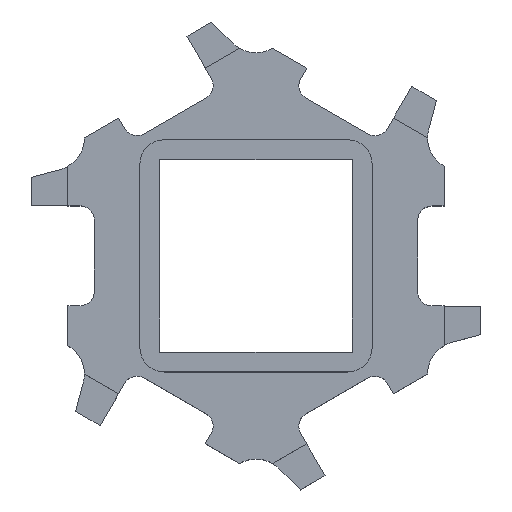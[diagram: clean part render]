
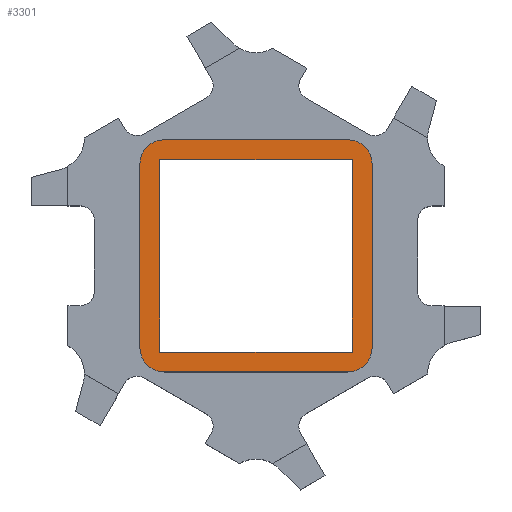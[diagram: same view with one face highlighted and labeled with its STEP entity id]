
A CAD part, top view. The second image highlights one B-rep face of the part: STEP entity #3301.
In plain terms, the highlighted planar face has unit normal (0, 0, 1).
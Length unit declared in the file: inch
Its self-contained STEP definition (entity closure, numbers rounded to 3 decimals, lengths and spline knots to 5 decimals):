
#1176=CARTESIAN_POINT('',(0.75,0.75,0.73));
#1177=DIRECTION('',(0.,0.,1.));
#1178=DIRECTION('',(1.,0.,0.));
#1179=AXIS2_PLACEMENT_3D('',#1176,#1177,#1178);
#1181=DIRECTION('',(0.,1.,0.));
#1182=VECTOR('',#1181,1.5);
#1183=CARTESIAN_POINT('',(0.95,-0.75,0.73));
#1184=LINE('',#1183,#1182);
#1185=CARTESIAN_POINT('',(0.75,-0.75,0.73));
#1186=DIRECTION('',(0.,0.,1.));
#1187=DIRECTION('',(0.,-1.,0.));
#1188=AXIS2_PLACEMENT_3D('',#1185,#1186,#1187);
#1190=DIRECTION('',(1.,0.,0.));
#1191=VECTOR('',#1190,1.5);
#1192=CARTESIAN_POINT('',(-0.75,-0.95,0.73));
#1193=LINE('',#1192,#1191);
#1194=CARTESIAN_POINT('',(-0.75,-0.75,0.73));
#1195=DIRECTION('',(0.,0.,1.));
#1196=DIRECTION('',(-1.,0.,0.));
#1197=AXIS2_PLACEMENT_3D('',#1194,#1195,#1196);
#1199=DIRECTION('',(0.,-1.,0.));
#1200=VECTOR('',#1199,1.5);
#1201=CARTESIAN_POINT('',(-0.95,0.75,0.73));
#1202=LINE('',#1201,#1200);
#1203=CARTESIAN_POINT('',(-0.75,0.75,0.73));
#1204=DIRECTION('',(0.,0.,1.));
#1205=DIRECTION('',(0.,1.,0.));
#1206=AXIS2_PLACEMENT_3D('',#1203,#1204,#1205);
#1208=DIRECTION('',(-1.,0.,0.));
#1209=VECTOR('',#1208,1.5);
#1210=CARTESIAN_POINT('',(0.75,0.95,0.73));
#1211=LINE('',#1210,#1209);
#1212=DIRECTION('',(0.,-1.,0.));
#1213=VECTOR('',#1212,1.575);
#1214=CARTESIAN_POINT('',(-0.7875,0.7875,0.73));
#1215=LINE('',#1214,#1213);
#1216=DIRECTION('',(1.,0.,0.));
#1217=VECTOR('',#1216,1.575);
#1218=CARTESIAN_POINT('',(-0.7875,-0.7875,0.73));
#1219=LINE('',#1218,#1217);
#1220=DIRECTION('',(0.,1.,0.));
#1221=VECTOR('',#1220,1.575);
#1222=CARTESIAN_POINT('',(0.7875,-0.7875,0.73));
#1223=LINE('',#1222,#1221);
#1224=DIRECTION('',(-1.,0.,0.));
#1225=VECTOR('',#1224,1.575);
#1226=CARTESIAN_POINT('',(0.7875,0.7875,0.73));
#1227=LINE('',#1226,#1225);
#1409=CARTESIAN_POINT('',(-0.7875,0.7875,0.73));
#1411=VERTEX_POINT('',#1409);
#1413=CARTESIAN_POINT('',(-0.7875,-0.7875,0.73));
#1415=VERTEX_POINT('',#1413);
#1417=CARTESIAN_POINT('',(0.7875,-0.7875,0.73));
#1419=VERTEX_POINT('',#1417);
#1421=CARTESIAN_POINT('',(0.7875,0.7875,0.73));
#1423=VERTEX_POINT('',#1421);
#1569=CARTESIAN_POINT('',(0.95,0.75,0.73));
#1571=VERTEX_POINT('',#1569);
#1573=CARTESIAN_POINT('',(0.75,0.95,0.73));
#1574=VERTEX_POINT('',#1573);
#1593=CARTESIAN_POINT('',(-0.75,0.95,0.73));
#1595=VERTEX_POINT('',#1593);
#1597=CARTESIAN_POINT('',(-0.95,0.75,0.73));
#1598=VERTEX_POINT('',#1597);
#1601=CARTESIAN_POINT('',(-0.95,-0.75,0.73));
#1603=VERTEX_POINT('',#1601);
#1605=CARTESIAN_POINT('',(-0.75,-0.95,0.73));
#1606=VERTEX_POINT('',#1605);
#1625=CARTESIAN_POINT('',(0.75,-0.95,0.73));
#1627=VERTEX_POINT('',#1625);
#1629=CARTESIAN_POINT('',(0.95,-0.75,0.73));
#1630=VERTEX_POINT('',#1629);
#3277=CARTESIAN_POINT('',(0.,0.,0.73));
#3278=DIRECTION('',(0.,0.,1.));
#3279=DIRECTION('',(1.,0.,0.));
#3280=AXIS2_PLACEMENT_3D('',#3277,#3278,#3279);
#3281=PLANE('',#3280);
#3282=ORIENTED_EDGE('',*,*,#3048,.F.);
#3283=ORIENTED_EDGE('',*,*,#3064,.F.);
#3284=ORIENTED_EDGE('',*,*,#3091,.F.);
#3285=ORIENTED_EDGE('',*,*,#3105,.F.);
#3286=ORIENTED_EDGE('',*,*,#3134,.F.);
#3287=ORIENTED_EDGE('',*,*,#3163,.F.);
#3289=ORIENTED_EDGE('',*,*,#3288,.F.);
#3290=ORIENTED_EDGE('',*,*,#3018,.F.);
#3291=EDGE_LOOP('',(#3282,#3283,#3284,#3285,#3286,#3287,#3289,#3290));
#3292=FACE_OUTER_BOUND('',#3291,.F.);
#3293=ORIENTED_EDGE('',*,*,#3258,.T.);
#3295=ORIENTED_EDGE('',*,*,#3294,.T.);
#3297=ORIENTED_EDGE('',*,*,#3296,.T.);
#3298=ORIENTED_EDGE('',*,*,#3269,.T.);
#3299=EDGE_LOOP('',(#3293,#3295,#3297,#3298));
#3300=FACE_BOUND('',#3299,.F.);
#3301=ADVANCED_FACE('',(#3292,#3300),#3281,.T.);
#1180=CIRCLE('',#1179,0.2);
#1189=CIRCLE('',#1188,0.2);
#1198=CIRCLE('',#1197,0.2);
#1207=CIRCLE('',#1206,0.2);
#3018=EDGE_CURVE('',#1574,#1595,#1211,.T.);
#3048=EDGE_CURVE('',#1571,#1574,#1180,.T.);
#3064=EDGE_CURVE('',#1630,#1571,#1184,.T.);
#3091=EDGE_CURVE('',#1627,#1630,#1189,.T.);
#3105=EDGE_CURVE('',#1606,#1627,#1193,.T.);
#3134=EDGE_CURVE('',#1603,#1606,#1198,.T.);
#3163=EDGE_CURVE('',#1598,#1603,#1202,.T.);
#3258=EDGE_CURVE('',#1411,#1415,#1215,.T.);
#3269=EDGE_CURVE('',#1423,#1411,#1227,.T.);
#3288=EDGE_CURVE('',#1595,#1598,#1207,.T.);
#3294=EDGE_CURVE('',#1415,#1419,#1219,.T.);
#3296=EDGE_CURVE('',#1419,#1423,#1223,.T.);
